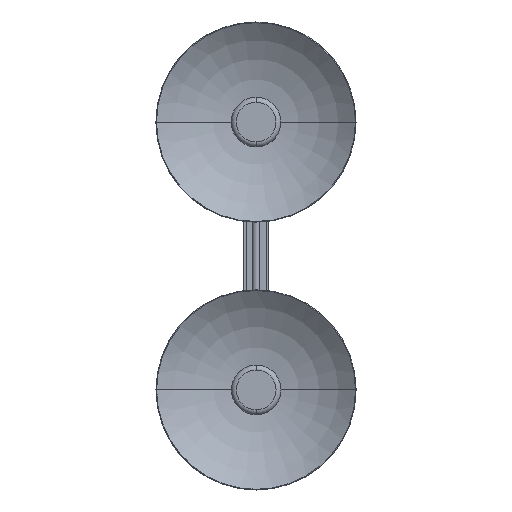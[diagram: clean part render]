
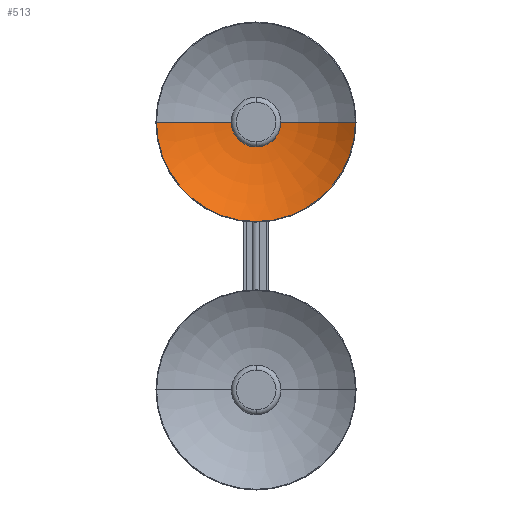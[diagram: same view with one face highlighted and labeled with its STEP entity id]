
A CAD part, front view. The second image highlights one B-rep face of the part: STEP entity #513.
In plain terms, the highlighted toroidal (fillet/blend) face has major radius 26.849 mm and minor radius 265 mm.
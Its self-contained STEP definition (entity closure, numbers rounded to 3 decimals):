
#443 = AXIS2_PLACEMENT_3D ( 'NONE', #1163, #1868, #1151 ) ;
#513 = ADVANCED_FACE ( 'NONE', ( #1241 ), #2808, .F. ) ;
#855 = VERTEX_POINT ( 'NONE', #2953 ) ;
#864 = DIRECTION ( 'NONE',  ( -1., 0., 0. ) ) ;
#876 = CIRCLE ( 'NONE', #3306, 265. ) ;
#993 = EDGE_CURVE ( 'NONE', #855, #1348, #3373, .T. ) ;
#1057 = VERTEX_POINT ( 'NONE', #4133 ) ;
#1112 = EDGE_CURVE ( 'NONE', #855, #1057, #3207, .T. ) ;
#1141 = EDGE_LOOP ( 'NONE', ( #2333, #3964, #2824 ) ) ;
#1151 = DIRECTION ( 'NONE',  ( -1., 0., 0. ) ) ;
#1163 = CARTESIAN_POINT ( 'NONE',  ( -2.692, -95.767, 1224.877 ) ) ;
#1241 = FACE_OUTER_BOUND ( 'NONE', #1141, .T. ) ;
#1348 = VERTEX_POINT ( 'NONE', #3252 ) ;
#1398 = DIRECTION ( 'NONE',  ( 0., 0., 1. ) ) ;
#1573 = CARTESIAN_POINT ( 'NONE',  ( -2.692, -296.375, 1224.877 ) ) ;
#1592 = DIRECTION ( 'NONE',  ( 0., 0., -1. ) ) ;
#1772 = DIRECTION ( 'NONE',  ( 1., 0., 0. ) ) ;
#1868 = DIRECTION ( 'NONE',  ( 0., 1., 0. ) ) ;
#1949 = DIRECTION ( 'NONE',  ( -1., 0., 0. ) ) ;
#2333 = ORIENTED_EDGE ( 'NONE', *, *, #1112, .F. ) ;
#2795 = AXIS2_PLACEMENT_3D ( 'NONE', #3641, #1398, #1772 ) ;
#2808 = TOROIDAL_SURFACE ( 'NONE', #4675, 26.849, 265. ) ;
#2824 = ORIENTED_EDGE ( 'NONE', *, *, #3371, .F. ) ;
#2953 = CARTESIAN_POINT ( 'NONE',  ( 197.308, -95.767, 1224.877 ) ) ;
#3207 = CIRCLE ( 'NONE', #443, 200. ) ;
#3252 = CARTESIAN_POINT ( 'NONE',  ( -2.692, -32.739, 1224.877 ) ) ;
#3306 = AXIS2_PLACEMENT_3D ( 'NONE', #3847, #1592, #864 ) ;
#3371 = EDGE_CURVE ( 'NONE', #1057, #1348, #876, .T. ) ;
#3373 = CIRCLE ( 'NONE', #2795, 265. ) ;
#3641 = CARTESIAN_POINT ( 'NONE',  ( 24.157, -296.375, 1224.877 ) ) ;
#3836 = DIRECTION ( 'NONE',  ( 0., 1., 0. ) ) ;
#3847 = CARTESIAN_POINT ( 'NONE',  ( -29.541, -296.375, 1224.877 ) ) ;
#3964 = ORIENTED_EDGE ( 'NONE', *, *, #993, .T. ) ;
#4133 = CARTESIAN_POINT ( 'NONE',  ( -202.692, -95.767, 1224.877 ) ) ;
#4675 = AXIS2_PLACEMENT_3D ( 'NONE', #1573, #3836, #1949 ) ;
